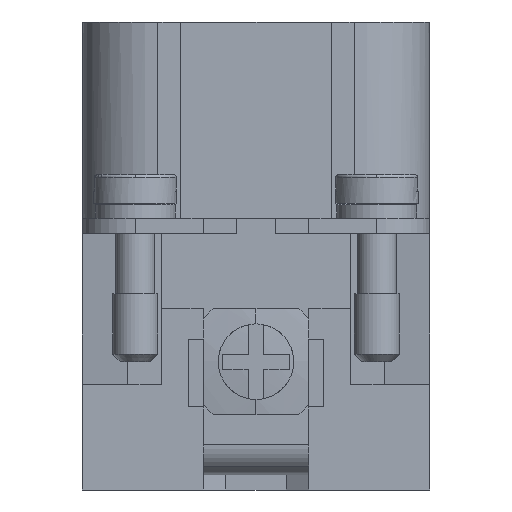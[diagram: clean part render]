
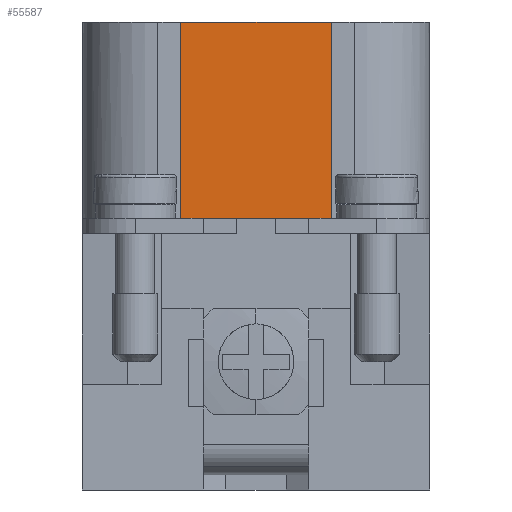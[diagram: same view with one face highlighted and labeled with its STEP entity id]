
A CAD part, left-side view. The second image highlights one B-rep face of the part: STEP entity #55587.
In plain terms, the highlighted planar face has unit normal (-1, 0, 0).
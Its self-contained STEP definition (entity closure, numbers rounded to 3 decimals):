
#41369=CARTESIAN_POINT('',(-36.0,-3.5,0.0));
#41370=VERTEX_POINT('',#41369);
#41393=CARTESIAN_POINT('',(-36.0,-5.0,0.0));
#41394=VERTEX_POINT('',#41393);
#41395=CARTESIAN_POINT('',(-36.0,-3.5,0.0));
#41396=DIRECTION('',(0.0,-1.0,0.0));
#41397=VECTOR('',#41396,1.5);
#41398=LINE('',#41395,#41397);
#41399=EDGE_CURVE('',#41370,#41394,#41398,.T.);
#41441=CARTESIAN_POINT('',(-36.0,5.0,0.0));
#41442=VERTEX_POINT('',#41441);
#41443=CARTESIAN_POINT('',(-36.0,3.5,0.0));
#41444=VERTEX_POINT('',#41443);
#41445=CARTESIAN_POINT('',(-36.0,5.0,0.0));
#41446=DIRECTION('',(0.0,-1.0,0.0));
#41447=VECTOR('',#41446,1.5);
#41448=LINE('',#41445,#41447);
#41449=EDGE_CURVE('',#41442,#41444,#41448,.T.);
#54981=CARTESIAN_POINT('',(-36.0,3.5,0.0));
#54982=DIRECTION('',(0.0,-1.0,0.0));
#54983=VECTOR('',#54982,7.0);
#54984=LINE('',#54981,#54983);
#54985=EDGE_CURVE('',#41444,#41370,#54984,.T.);
#55555=CARTESIAN_POINT('',(-36.0,-5.0,0.0));
#55556=DIRECTION('',(-1.0,0.0,0.0));
#55557=DIRECTION('',(0.0,0.0,1.0));
#55558=AXIS2_PLACEMENT_3D('',#55555,#55556,#55557);
#55559=PLANE('',#55558);
#55560=CARTESIAN_POINT('',(-36.0,-5.0,13.0));
#55561=VERTEX_POINT('',#55560);
#55562=CARTESIAN_POINT('',(-36.0,5.0,13.0));
#55563=VERTEX_POINT('',#55562);
#55564=CARTESIAN_POINT('',(-36.0,-5.0,13.0));
#55565=DIRECTION('',(0.0,1.0,0.0));
#55566=VECTOR('',#55565,10.0);
#55567=LINE('',#55564,#55566);
#55568=EDGE_CURVE('',#55561,#55563,#55567,.T.);
#55569=ORIENTED_EDGE('',*,*,#55568,.T.);
#55570=CARTESIAN_POINT('',(-36.0,5.0,0.0));
#55571=DIRECTION('',(0.0,0.0,1.0));
#55572=VECTOR('',#55571,13.0);
#55573=LINE('',#55570,#55572);
#55574=EDGE_CURVE('',#41442,#55563,#55573,.T.);
#55575=ORIENTED_EDGE('',*,*,#55574,.F.);
#55576=ORIENTED_EDGE('',*,*,#41449,.T.);
#55577=ORIENTED_EDGE('',*,*,#54985,.T.);
#55578=ORIENTED_EDGE('',*,*,#41399,.T.);
#55579=CARTESIAN_POINT('',(-36.0,-5.0,0.0));
#55580=DIRECTION('',(0.0,0.0,1.0));
#55581=VECTOR('',#55580,13.0);
#55582=LINE('',#55579,#55581);
#55583=EDGE_CURVE('',#41394,#55561,#55582,.T.);
#55584=ORIENTED_EDGE('',*,*,#55583,.T.);
#55585=EDGE_LOOP('',(#55569,#55575,#55576,#55577,#55578,#55584));
#55586=FACE_OUTER_BOUND('',#55585,.T.);
#55587=ADVANCED_FACE('',(#55586),#55559,.T.);
